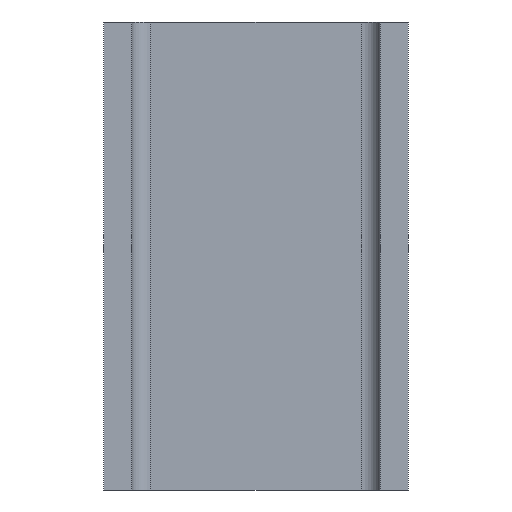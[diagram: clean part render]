
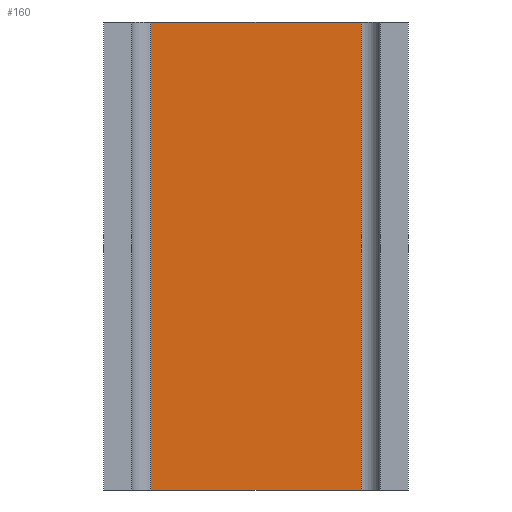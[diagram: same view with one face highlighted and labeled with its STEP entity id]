
A CAD part, left-side view. The second image highlights one B-rep face of the part: STEP entity #160.
In plain terms, the highlighted planar face has unit normal (-1, 0, 0).
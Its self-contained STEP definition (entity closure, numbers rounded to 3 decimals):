
#2 = VERTEX_POINT ( 'NONE', #158 ) ;
#34 = CARTESIAN_POINT ( 'NONE',  ( 112.895, 99.387, -100. ) ) ;
#42 = LINE ( 'NONE', #204, #125 ) ;
#50 = ORIENTED_EDGE ( 'NONE', *, *, #348, .F. ) ;
#65 = DIRECTION ( 'NONE',  ( 0., 0., 1. ) ) ;
#71 = CARTESIAN_POINT ( 'NONE',  ( 112.895, 99.387, -100. ) ) ;
#79 = CARTESIAN_POINT ( 'NONE',  ( 112.895, 99.387, -100. ) ) ;
#89 = ORIENTED_EDGE ( 'NONE', *, *, #459, .T. ) ;
#106 = VECTOR ( 'NONE', #65, 1000. ) ;
#112 = DIRECTION ( 'NONE',  ( 0., -1., 0. ) ) ;
#125 = VECTOR ( 'NONE', #421, 1000. ) ;
#130 = VERTEX_POINT ( 'NONE', #151 ) ;
#146 = PLANE ( 'NONE',  #269 ) ;
#151 = CARTESIAN_POINT ( 'NONE',  ( 112.895, 99.387, -100. ) ) ;
#158 = CARTESIAN_POINT ( 'NONE',  ( 112.895, 54.387, -100. ) ) ;
#160 = ADVANCED_FACE ( 'NONE', ( #309 ), #146, .T. ) ;
#171 = VERTEX_POINT ( 'NONE', #288 ) ;
#174 = DIRECTION ( 'NONE',  ( 0., -1., 0. ) ) ;
#175 = LINE ( 'NONE', #71, #187 ) ;
#187 = VECTOR ( 'NONE', #174, 1000. ) ;
#204 = CARTESIAN_POINT ( 'NONE',  ( 112.895, 54.387, -100. ) ) ;
#208 = LINE ( 'NONE', #34, #106 ) ;
#269 = AXIS2_PLACEMENT_3D ( 'NONE', #79, #362, #112 ) ;
#288 = CARTESIAN_POINT ( 'NONE',  ( 112.895, 99.387, 0. ) ) ;
#300 = DIRECTION ( 'NONE',  ( 0., -1., 0. ) ) ;
#309 = FACE_OUTER_BOUND ( 'NONE', #314, .T. ) ;
#312 = LINE ( 'NONE', #341, #404 ) ;
#314 = EDGE_LOOP ( 'NONE', ( #50, #343, #89, #420 ) ) ;
#340 = EDGE_CURVE ( 'NONE', #2, #342, #42, .T. ) ;
#341 = CARTESIAN_POINT ( 'NONE',  ( 112.895, 99.387, 0. ) ) ;
#342 = VERTEX_POINT ( 'NONE', #461 ) ;
#343 = ORIENTED_EDGE ( 'NONE', *, *, #401, .F. ) ;
#348 = EDGE_CURVE ( 'NONE', #171, #342, #312, .T. ) ;
#362 = DIRECTION ( 'NONE',  ( -1., 0., 0. ) ) ;
#401 = EDGE_CURVE ( 'NONE', #130, #171, #208, .T. ) ;
#404 = VECTOR ( 'NONE', #300, 1000. ) ;
#420 = ORIENTED_EDGE ( 'NONE', *, *, #340, .T. ) ;
#421 = DIRECTION ( 'NONE',  ( 0., 0., 1. ) ) ;
#459 = EDGE_CURVE ( 'NONE', #130, #2, #175, .T. ) ;
#461 = CARTESIAN_POINT ( 'NONE',  ( 112.895, 54.387, 0. ) ) ;
